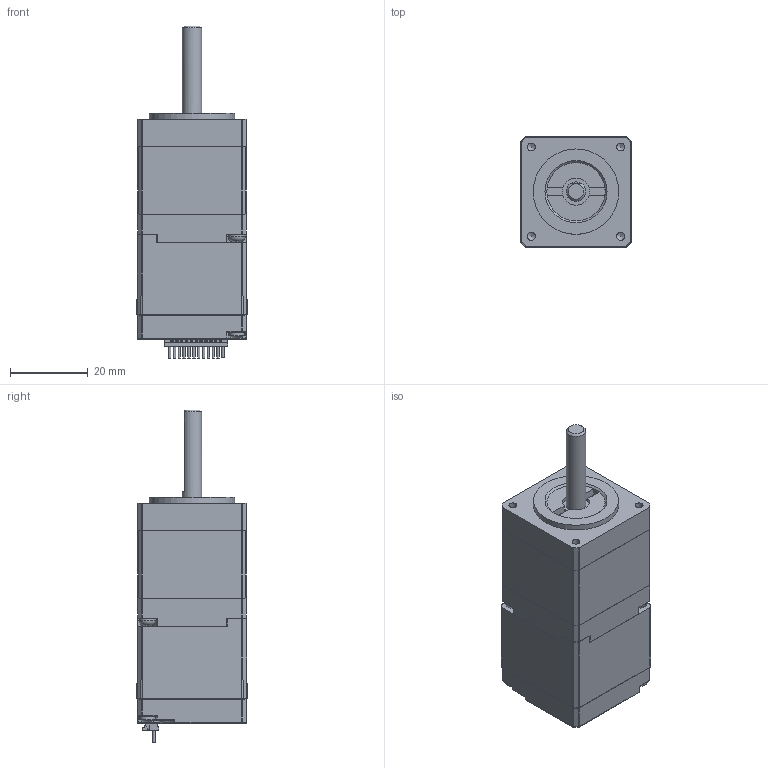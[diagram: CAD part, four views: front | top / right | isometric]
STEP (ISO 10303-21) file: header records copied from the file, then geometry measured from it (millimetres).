
FILE_DESCRIPTION (( 'STEP AP214' ), '1' );
FILE_NAME ('IM28ET(C)008-(P).STEP', '2024-11-15T06:10:14', ( '' ), ( '' ), 'SwSTEP 2.0', 'SolidWorks 2023', '' );
FILE_SCHEMA (( 'AUTOMOTIVE_DESIGN' ));
Length unit declared in the file: millimetre
Products named in the file (3): IM28驱动器; IM28电机; IM28ET(C)008-(P)
Assembly tree (2 placements, depth 2):
  IM28ET(C)008-(P)
    IM28电机
    IM28驱动器
Bounding box: 28.4 x 28.4 x 85.5 mm (x, y, z)
Volume: 40538.2 mm3; surface area: 17100.5 mm2
Topology: 2 solids, 14 shells, 1844 faces, 5188 edges, 3329 vertices
Faces by surface type: plane 1300, cylinder 367, cone 131, torus 34, sphere 10, bspline 2
Full cylindrical faces by diameter (mm): 0.5 x2, 0.6 x13, 0.65 x2, 0.7 x4, 0.75 x1, 0.8 x2, 0.9 x4, 1.5 x2, 1.7 x36, 2 x4, 2.05 x4, 2.5 x18, 2.6 x4, 2.7 x2, 3 x1, 4 x2, 4.5 x2, 5 x2, 8 x1, 10.165 x1, 22 x1, 26 x1
Entity records: 63138 total; most frequent: CARTESIAN_POINT 13251, ORIENTED_EDGE 9802, DIRECTION 8948, EDGE_CURVE 4901, VECTOR 3570, LINE 3570, VERTEX_POINT 3260, AXIS2_PLACEMENT_3D 2689
